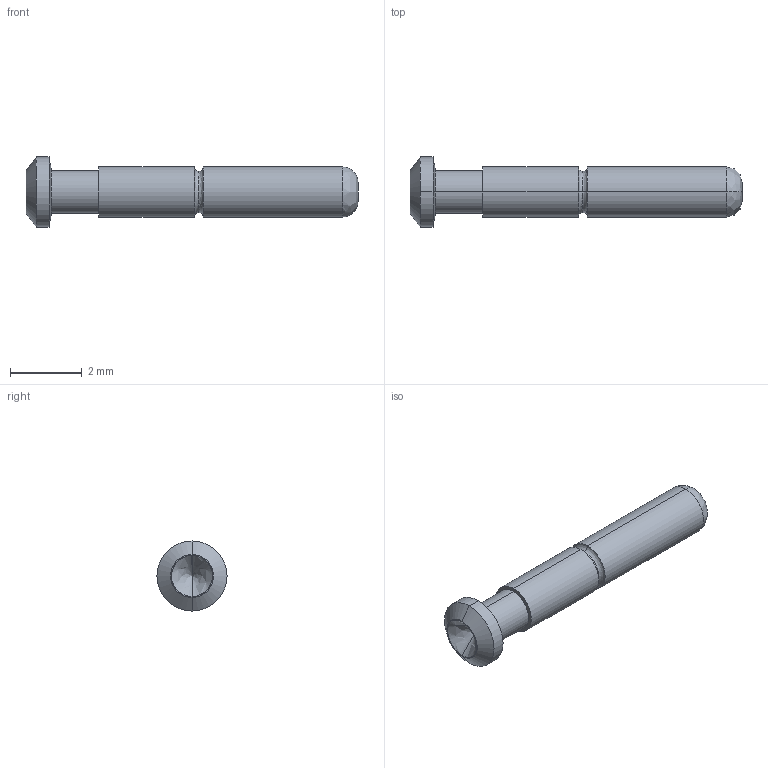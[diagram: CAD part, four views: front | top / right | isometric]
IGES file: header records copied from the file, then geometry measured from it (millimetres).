
Start section: SolidWorks IGES file using analytic representation for surfaces
Global section: file name: Z:\probe solid model mockups\Solidworks models\IGES Files\HPA-64\HPA-64-2.IGS; native system: SolidWorks 2006 by SolidWorks Corporation; preprocessor: SolidWorks 2006 by SolidWorks Corporation; author: tsakatani; date: 071220.100108; units: inch
Bounding box: 9.27 x 1.96 x 1.96 mm (x, y, z)
Surface area: 46.2 mm2 (no closed solid volume)
Topology: 0 solids, 0 shells, 23 faces, 160 edges, 158 vertices
Faces by surface type: revolution 14, bspline 9
